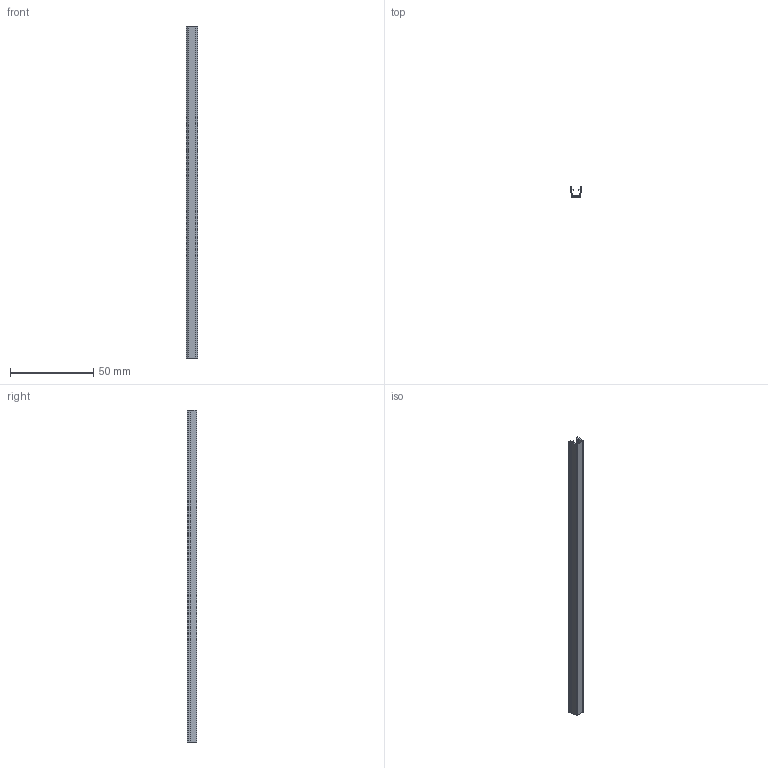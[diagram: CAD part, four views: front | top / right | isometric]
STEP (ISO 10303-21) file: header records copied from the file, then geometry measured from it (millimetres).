
FILE_DESCRIPTION (( 'STEP AP214' ), '1' );
FILE_NAME ('Panel Seal - 20 Series.STEP', '2025-05-17T13:33:50', ( '' ), ( '' ), 'SwSTEP 2.0', 'SolidWorks 2024', '' );
FILE_SCHEMA (( 'AUTOMOTIVE_DESIGN' ));
Length unit declared in the file: millimetre
Products named in the file (1): Panel Seal - 20 Series
Bounding box: 7.15 x 6 x 200 mm (x, y, z)
Volume: 2246.8 mm3; surface area: 8041.9 mm2
Topology: 1 solids, 1 shells, 29 faces, 81 edges, 54 vertices
Faces by surface type: plane 24, cylinder 5
Entity records: 948 total; most frequent: CARTESIAN_POINT 165, ORIENTED_EDGE 162, DIRECTION 151, EDGE_CURVE 81, VECTOR 71, LINE 71, VERTEX_POINT 54, AXIS2_PLACEMENT_3D 40
